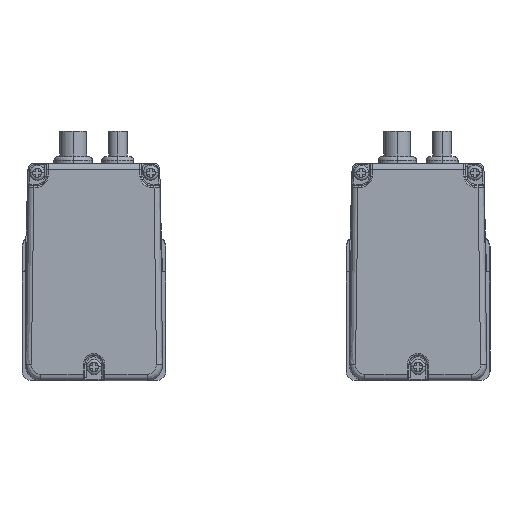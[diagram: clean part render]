
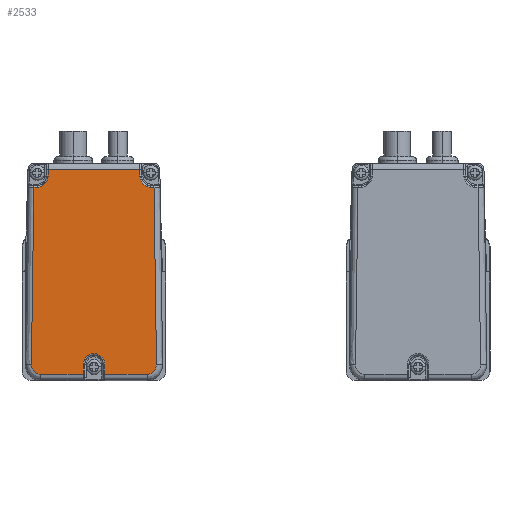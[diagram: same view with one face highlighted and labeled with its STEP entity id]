
A CAD part, left-side view. The second image highlights one B-rep face of the part: STEP entity #2533.
In plain terms, the highlighted planar face has unit normal (-1, 0, 0).
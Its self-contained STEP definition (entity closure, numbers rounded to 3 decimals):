
#2533=ADVANCED_FACE('',(#5286),#5287,.F.);
#5286=FACE_OUTER_BOUND('',#47474,.T.);
#5287=PLANE('',#47475);
#47474=EDGE_LOOP('',(#63580,#63581,#63582,#63583,#63584,#63585,#63586,#63587,#63588,#63589,#63590,#63591,#63592,#63593,#63594,#63595,#63596));
#47475=AXIS2_PLACEMENT_3D('',#63597,#63598,#63599);
#63580=ORIENTED_EDGE('',*,*,#70193,.F.);
#63581=ORIENTED_EDGE('',*,*,#69140,.F.);
#63582=ORIENTED_EDGE('',*,*,#68464,.F.);
#63583=ORIENTED_EDGE('',*,*,#69741,.F.);
#63584=ORIENTED_EDGE('',*,*,#70194,.F.);
#63585=ORIENTED_EDGE('',*,*,#70073,.F.);
#63586=ORIENTED_EDGE('',*,*,#70195,.F.);
#63587=ORIENTED_EDGE('',*,*,#68842,.F.);
#63588=ORIENTED_EDGE('',*,*,#70196,.F.);
#63589=ORIENTED_EDGE('',*,*,#70197,.F.);
#63590=ORIENTED_EDGE('',*,*,#69985,.F.);
#63591=ORIENTED_EDGE('',*,*,#70198,.F.);
#63592=ORIENTED_EDGE('',*,*,#68936,.F.);
#63593=ORIENTED_EDGE('',*,*,#69924,.F.);
#63594=ORIENTED_EDGE('',*,*,#70199,.F.);
#63595=ORIENTED_EDGE('',*,*,#70200,.F.);
#63596=ORIENTED_EDGE('',*,*,#70201,.F.);
#63597=CARTESIAN_POINT('',(60.75,84.221,103.38));
#63598=DIRECTION('',(1.0,0.0,0.0));
#63599=DIRECTION('',(0.0,0.0,-1.0));
#68464=EDGE_CURVE('',#72723,#72725,#72726,.T.);
#68842=EDGE_CURVE('',#73337,#73335,#73339,.T.);
#68936=EDGE_CURVE('',#73486,#73488,#73489,.T.);
#69140=EDGE_CURVE('',#72725,#73796,#73799,.T.);
#69741=EDGE_CURVE('',#74676,#72723,#74678,.T.);
#69924=EDGE_CURVE('',#74937,#73486,#74939,.T.);
#69985=EDGE_CURVE('',#72081,#75022,#75024,.T.);
#70073=EDGE_CURVE('',#75131,#75133,#75134,.T.);
#70193=EDGE_CURVE('',#73796,#75290,#75291,.T.);
#70194=EDGE_CURVE('',#75133,#74676,#75292,.T.);
#70195=EDGE_CURVE('',#73335,#75131,#75293,.T.);
#70196=EDGE_CURVE('',#75294,#73337,#75295,.T.);
#70197=EDGE_CURVE('',#75022,#75294,#75296,.T.);
#70198=EDGE_CURVE('',#73488,#72081,#75297,.T.);
#70199=EDGE_CURVE('',#75298,#74937,#75299,.T.);
#70200=EDGE_CURVE('',#75300,#75298,#75301,.T.);
#70201=EDGE_CURVE('',#75290,#75300,#75302,.T.);
#72081=VERTEX_POINT('',#98068);
#72723=VERTEX_POINT('',#100084);
#72725=VERTEX_POINT('',#100086);
#72726=ELLIPSE('',#100087,3.,2.873);
#73335=VERTEX_POINT('',#103572);
#73337=VERTEX_POINT('',#103574);
#73339=LINE('',#103576,#103577);
#73486=VERTEX_POINT('',#104821);
#73488=VERTEX_POINT('',#104823);
#73489=ELLIPSE('',#104824,3.,2.873);
#73796=VERTEX_POINT('',#106828);
#73799=LINE('',#106832,#106833);
#74676=VERTEX_POINT('',#138649);
#74678=LINE('',#138651,#138652);
#74937=VERTEX_POINT('',#148403);
#74939=LINE('',#148405,#148406);
#75022=VERTEX_POINT('',#148555);
#75024=LINE('',#148557,#148558);
#75131=VERTEX_POINT('',#148759);
#75133=VERTEX_POINT('',#148761);
#75134=ELLIPSE('',#148762,3.5,3.352);
#75290=VERTEX_POINT('',#149037);
#75291=LINE('',#149038,#149039);
#75292=LINE('',#149040,#149041);
#75293=LINE('',#149042,#149043);
#75294=VERTEX_POINT('',#149044);
#75295=LINE('',#149045,#149046);
#75296=ELLIPSE('',#149047,3.5,3.352);
#75297=LINE('',#149048,#149049);
#75298=VERTEX_POINT('',#149050);
#75299=LINE('',#149051,#149052);
#75300=VERTEX_POINT('',#149053);
#75301=ELLIPSE('',#149054,3.5,3.352);
#75302=ELLIPSE('',#149055,3.5,3.352);
#98068=CARTESIAN_POINT('',(60.75,122.576,97.88));
#100084=CARTESIAN_POINT('',(60.75,84.239,42.425));
#100086=CARTESIAN_POINT('',(60.75,87.111,39.38));
#100087=AXIS2_PLACEMENT_3D('',#152346,#152347,#152348);
#103572=CARTESIAN_POINT('',(60.75,89.434,103.38));
#103574=CARTESIAN_POINT('',(60.75,118.162,103.38));
#103576=CARTESIAN_POINT('',(60.75,103.798,103.38));
#103577=VECTOR('',#152854,0.958);
#104821=CARTESIAN_POINT('',(60.75,120.485,39.38));
#104823=CARTESIAN_POINT('',(60.75,123.357,42.425));
#104824=AXIS2_PLACEMENT_3D('',#152978,#152979,#152980);
#106828=CARTESIAN_POINT('',(60.75,100.446,39.38));
#106832=CARTESIAN_POINT('',(60.75,103.798,39.38));
#106833=VECTOR('',#153226,0.958);
#138649=CARTESIAN_POINT('',(60.75,85.02,97.88));
#138651=CARTESIAN_POINT('',(60.75,84.648,71.513));
#138652=VECTOR('',#153883,1.);
#148403=CARTESIAN_POINT('',(60.75,107.149,39.38));
#148405=CARTESIAN_POINT('',(60.75,103.798,39.38));
#148406=VECTOR('',#154075,0.958);
#148555=CARTESIAN_POINT('',(60.75,121.513,97.88));
#148557=CARTESIAN_POINT('',(60.75,112.895,97.88));
#148558=VECTOR('',#154139,0.958);
#148759=CARTESIAN_POINT('',(60.75,89.434,101.38));
#148761=CARTESIAN_POINT('',(60.75,86.083,97.88));
#148762=AXIS2_PLACEMENT_3D('',#154235,#154236,#154237);
#149037=CARTESIAN_POINT('',(60.75,100.446,42.38));
#149038=CARTESIAN_POINT('',(60.75,100.446,56.38));
#149039=VECTOR('',#154390,1.);
#149040=CARTESIAN_POINT('',(60.75,94.701,97.88));
#149041=VECTOR('',#154391,0.958);
#149042=CARTESIAN_POINT('',(60.75,89.434,86.63));
#149043=VECTOR('',#154392,1.0);
#149044=CARTESIAN_POINT('',(60.75,118.162,101.38));
#149045=CARTESIAN_POINT('',(60.75,118.162,86.63));
#149046=VECTOR('',#154393,1.);
#149047=AXIS2_PLACEMENT_3D('',#154394,#154395,#154396);
#149048=CARTESIAN_POINT('',(60.75,122.947,71.513));
#149049=VECTOR('',#154397,1.);
#149050=CARTESIAN_POINT('',(60.75,107.149,42.38));
#149051=CARTESIAN_POINT('',(60.75,107.149,56.38));
#149052=VECTOR('',#154398,1.);
#149053=CARTESIAN_POINT('',(60.75,103.798,45.88));
#149054=AXIS2_PLACEMENT_3D('',#154399,#154400,#154401);
#149055=AXIS2_PLACEMENT_3D('',#154402,#154403,#154404);
#152346=CARTESIAN_POINT('',(60.75,87.111,42.38));
#152347=DIRECTION('',(1.0,0.0,0.0));
#152348=DIRECTION('',(0.0,0.,-1.0));
#152854=DIRECTION('',(0.0,-1.0,0.0));
#152978=CARTESIAN_POINT('',(60.75,120.485,42.38));
#152979=DIRECTION('',(1.0,0.0,0.0));
#152980=DIRECTION('',(0.0,0.,-1.0));
#153226=DIRECTION('',(0.0,1.0,0.0));
#153883=DIRECTION('',(0.0,-0.014,-1.));
#154075=DIRECTION('',(0.0,1.0,0.0));
#154139=DIRECTION('',(0.0,-1.0,0.0));
#154235=CARTESIAN_POINT('',(60.75,86.083,101.38));
#154236=DIRECTION('',(-1.0,0.0,0.0));
#154237=DIRECTION('',(0.0,0.,1.0));
#154390=DIRECTION('',(0.0,0.0,1.0));
#154391=DIRECTION('',(0.0,-1.0,0.0));
#154392=DIRECTION('',(0.0,0.0,-1.0));
#154393=DIRECTION('',(0.0,0.0,1.0));
#154394=CARTESIAN_POINT('',(60.75,121.513,101.38));
#154395=DIRECTION('',(-1.0,0.0,0.0));
#154396=DIRECTION('',(0.0,0.,1.0));
#154397=DIRECTION('',(0.0,-0.014,1.));
#154398=DIRECTION('',(0.0,0.0,-1.0));
#154399=CARTESIAN_POINT('',(60.75,103.798,42.38));
#154400=DIRECTION('',(-1.0,0.0,0.0));
#154401=DIRECTION('',(0.0,0.,1.0));
#154402=CARTESIAN_POINT('',(60.75,103.798,42.38));
#154403=DIRECTION('',(-1.0,0.0,0.0));
#154404=DIRECTION('',(0.0,0.,1.0));
